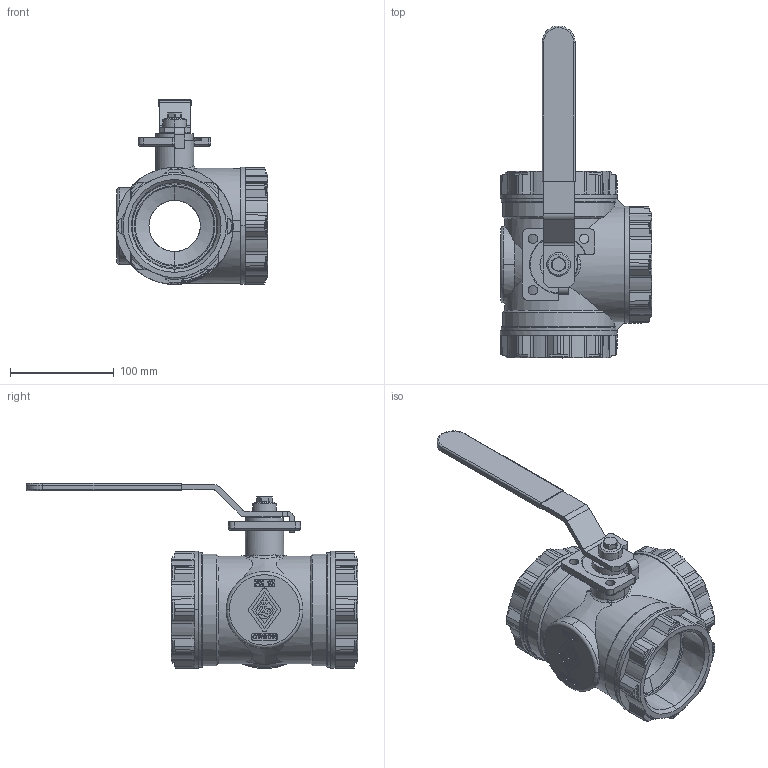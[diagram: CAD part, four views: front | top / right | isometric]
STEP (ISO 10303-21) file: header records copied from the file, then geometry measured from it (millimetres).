
FILE_DESCRIPTION(('Open CASCADE Model'),'2;1');
FILE_NAME('Open CASCADE Shape Model','2023-02-24T07:19:24',('Author'),( 'Open CASCADE'),'Open CASCADE STEP processor 7.3','Open CASCADE 7.3' ,'Unknown');
FILE_SCHEMA(('AUTOMOTIVE_DESIGN { 1 0 10303 214 1 1 1 1 }'));
Products named in the file (1): Open CASCADE STEP translator 7.3 1
Bounding box: 146.49 x 320 x 178.49 mm (x, y, z)
Volume: 1285058 mm3; surface area: 173238.3 mm2
Topology: 1 solids, 1 shells, 952 faces, 2673 edges, 1746 vertices
Faces by surface type: plane 577, cone 188, cylinder 146, torus 17, bspline 15, revolution 6, sphere 3
Entity records: 127459 total; most frequent: CARTESIAN_POINT 76217, DIRECTION 8992, LINE 5685, VECTOR 5685, ORIENTED_EDGE 5336, PCURVE 5336, DEFINITIONAL_REPRESENTATION 5336, EDGE_CURVE 2668
